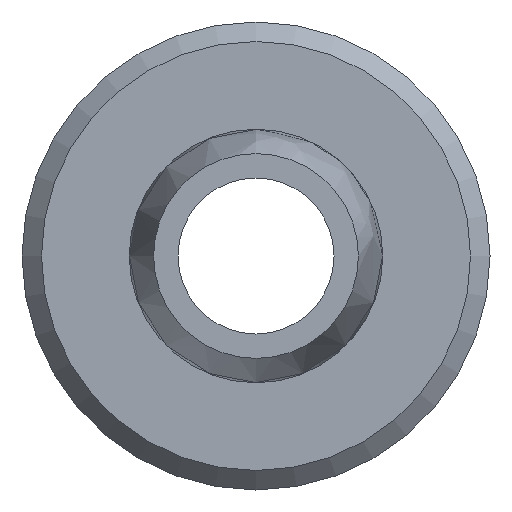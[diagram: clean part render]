
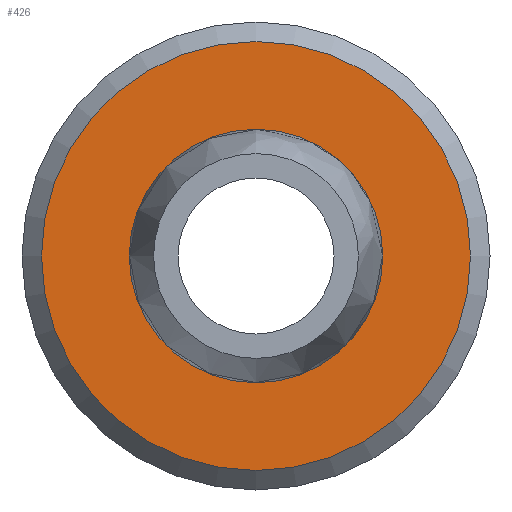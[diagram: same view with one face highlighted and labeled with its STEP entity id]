
A CAD part, front view. The second image highlights one B-rep face of the part: STEP entity #426.
In plain terms, the highlighted planar face has unit normal (0, -1, 0).
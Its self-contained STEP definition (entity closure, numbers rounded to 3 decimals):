
#17=FACE_BOUND('',#64,.T.);
#24=PLANE('',#475);
#39=FACE_OUTER_BOUND('',#63,.T.);
#63=EDGE_LOOP('',(#296));
#64=EDGE_LOOP('',(#297,#298));
#122=CIRCLE('',#469,5.5);
#127=CIRCLE('',#476,3.25);
#128=CIRCLE('',#477,3.25);
#172=VERTEX_POINT('',#706);
#177=VERTEX_POINT('',#720);
#178=VERTEX_POINT('',#721);
#220=EDGE_CURVE('',#172,#172,#122,.T.);
#227=EDGE_CURVE('',#177,#178,#127,.T.);
#228=EDGE_CURVE('',#178,#177,#128,.T.);
#296=ORIENTED_EDGE('',*,*,#220,.F.);
#297=ORIENTED_EDGE('',*,*,#227,.F.);
#298=ORIENTED_EDGE('',*,*,#228,.F.);
#426=ADVANCED_FACE('',(#39,#17),#24,.T.);
#469=AXIS2_PLACEMENT_3D('',#707,#545,#546);
#475=AXIS2_PLACEMENT_3D('',#719,#559,#560);
#476=AXIS2_PLACEMENT_3D('',#722,#561,#562);
#477=AXIS2_PLACEMENT_3D('',#723,#563,#564);
#545=DIRECTION('center_axis',(0.,1.,0.));
#546=DIRECTION('ref_axis',(-1.,0.,0.));
#559=DIRECTION('center_axis',(0.,-1.,0.));
#560=DIRECTION('ref_axis',(0.,0.,-1.));
#561=DIRECTION('center_axis',(0.,-1.,0.));
#562=DIRECTION('ref_axis',(1.,0.,0.));
#563=DIRECTION('center_axis',(0.,-1.,0.));
#564=DIRECTION('ref_axis',(1.,0.,0.));
#706=CARTESIAN_POINT('',(5.5,18.,0.));
#707=CARTESIAN_POINT('Origin',(0.,18.,0.));
#719=CARTESIAN_POINT('Origin',(3.25,18.,0.));
#720=CARTESIAN_POINT('',(3.25,18.,0.));
#721=CARTESIAN_POINT('',(-3.25,18.,0.));
#722=CARTESIAN_POINT('Origin',(0.,18.,0.));
#723=CARTESIAN_POINT('Origin',(0.,18.,0.));
